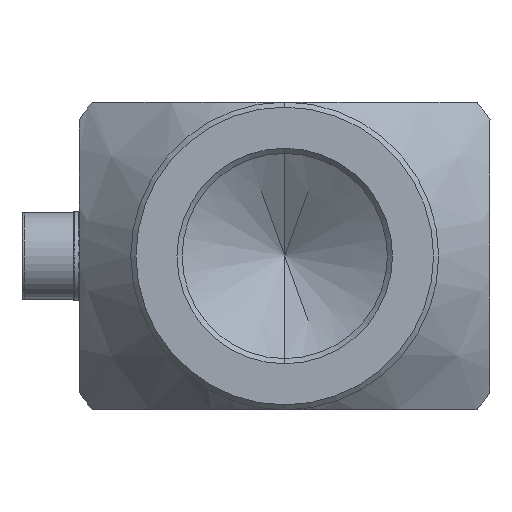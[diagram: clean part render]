
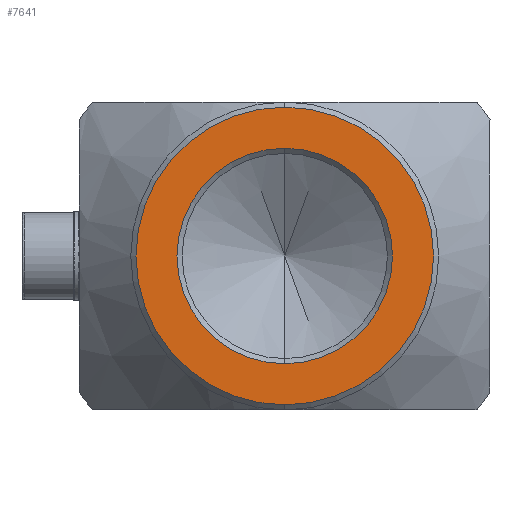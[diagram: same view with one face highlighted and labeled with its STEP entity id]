
A CAD part, front view. The second image highlights one B-rep face of the part: STEP entity #7641.
In plain terms, the highlighted planar face has unit normal (0, -1, 0).
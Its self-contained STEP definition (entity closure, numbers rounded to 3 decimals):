
#293 = DIRECTION ( 'NONE',  ( 0., 0., -1. ) ) ;
#435 = DIRECTION ( 'NONE',  ( 0., -1., 0. ) ) ;
#493 = CARTESIAN_POINT ( 'NONE',  ( 116.595, -13.535, 184. ) ) ;
#1150 = EDGE_LOOP ( 'NONE', ( #12126, #11818 ) ) ;
#1396 = CIRCLE ( 'NONE', #6978, 10.5 ) ;
#1731 = AXIS2_PLACEMENT_3D ( 'NONE', #493, #10904, #293 ) ;
#1819 = CARTESIAN_POINT ( 'NONE',  ( 116.595, -13.535, 194.5 ) ) ;
#2292 = DIRECTION ( 'NONE',  ( 0., 1., 0. ) ) ;
#2362 = CIRCLE ( 'NONE', #9365, 14.5 ) ;
#2571 = DIRECTION ( 'NONE',  ( 0., 0., 1. ) ) ;
#2738 = AXIS2_PLACEMENT_3D ( 'NONE', #11989, #2292, #10010 ) ;
#2811 = ORIENTED_EDGE ( 'NONE', *, *, #8024, .T. ) ;
#2847 = EDGE_CURVE ( 'NONE', #10596, #6675, #1396, .T. ) ;
#2878 = CIRCLE ( 'NONE', #9888, 14.5 ) ;
#3848 = CARTESIAN_POINT ( 'NONE',  ( 116.595, -13.535, 184. ) ) ;
#4195 = VERTEX_POINT ( 'NONE', #11300 ) ;
#5385 = DIRECTION ( 'NONE',  ( 0., 0., -1. ) ) ;
#5401 = EDGE_CURVE ( 'NONE', #6675, #10596, #7135, .T. ) ;
#5472 = CARTESIAN_POINT ( 'NONE',  ( 116.595, -13.535, 173.5 ) ) ;
#5821 = FACE_BOUND ( 'NONE', #1150, .T. ) ;
#6675 = VERTEX_POINT ( 'NONE', #1819 ) ;
#6978 = AXIS2_PLACEMENT_3D ( 'NONE', #10853, #435, #5385 ) ;
#7135 = CIRCLE ( 'NONE', #1731, 10.5 ) ;
#7183 = DIRECTION ( 'NONE',  ( 0., -1., 0. ) ) ;
#7334 = CARTESIAN_POINT ( 'NONE',  ( 116.595, -13.535, 184. ) ) ;
#7641 = ADVANCED_FACE ( 'NONE', ( #5821, #9638 ), #10704, .F. ) ;
#8024 = EDGE_CURVE ( 'NONE', #4195, #11429, #2362, .T. ) ;
#8330 = DIRECTION ( 'NONE',  ( 0., -1., 0. ) ) ;
#8383 = ORIENTED_EDGE ( 'NONE', *, *, #12427, .T. ) ;
#9365 = AXIS2_PLACEMENT_3D ( 'NONE', #3848, #7183, #11854 ) ;
#9638 = FACE_OUTER_BOUND ( 'NONE', #12371, .T. ) ;
#9786 = CARTESIAN_POINT ( 'NONE',  ( 116.595, -13.535, 198.5 ) ) ;
#9888 = AXIS2_PLACEMENT_3D ( 'NONE', #7334, #8330, #2571 ) ;
#10010 = DIRECTION ( 'NONE',  ( 0., 0., 1. ) ) ;
#10596 = VERTEX_POINT ( 'NONE', #5472 ) ;
#10704 = PLANE ( 'NONE',  #2738 ) ;
#10853 = CARTESIAN_POINT ( 'NONE',  ( 116.595, -13.535, 184. ) ) ;
#10904 = DIRECTION ( 'NONE',  ( 0., -1., 0. ) ) ;
#11300 = CARTESIAN_POINT ( 'NONE',  ( 116.595, -13.535, 169.5 ) ) ;
#11429 = VERTEX_POINT ( 'NONE', #9786 ) ;
#11818 = ORIENTED_EDGE ( 'NONE', *, *, #5401, .F. ) ;
#11854 = DIRECTION ( 'NONE',  ( 0., 0., 1. ) ) ;
#11989 = CARTESIAN_POINT ( 'NONE',  ( 101.921, -13.535, 169.326 ) ) ;
#12126 = ORIENTED_EDGE ( 'NONE', *, *, #2847, .F. ) ;
#12371 = EDGE_LOOP ( 'NONE', ( #8383, #2811 ) ) ;
#12427 = EDGE_CURVE ( 'NONE', #11429, #4195, #2878, .T. ) ;
